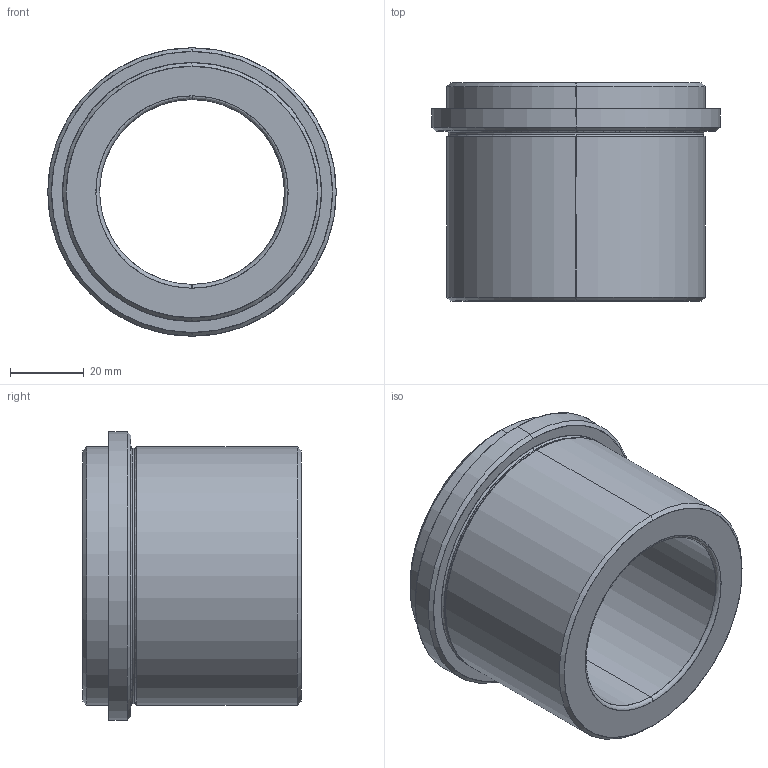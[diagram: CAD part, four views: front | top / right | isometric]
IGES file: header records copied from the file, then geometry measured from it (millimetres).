
Start section: SolidWorks IGES file using analytic representation for surfaces
Global section: file name: C:\Documents and Settings\kalite-mail\Desktop\IGS\D33\D33_50X46.IGS; native system: SolidWorks 2008; preprocessor: SolidWorks 2008; author: kalite-mail; date: 080707.161209; units: millimetre
Bounding box: 78 x 59 x 78 mm (x, y, z)
Surface area: 27604.8 mm2 (no closed solid volume)
Topology: 0 solids, 0 shells, 28 faces, 608 edges, 608 vertices
Faces by surface type: revolution 16, bspline 12
